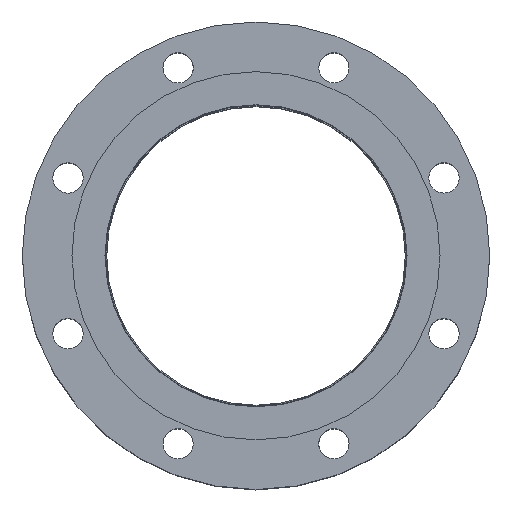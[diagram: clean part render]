
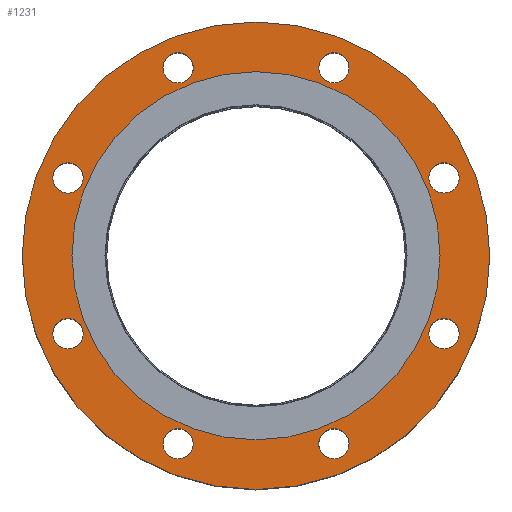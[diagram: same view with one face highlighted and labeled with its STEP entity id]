
A CAD part, top view. The second image highlights one B-rep face of the part: STEP entity #1231.
In plain terms, the highlighted planar face has unit normal (0, 0, 1).
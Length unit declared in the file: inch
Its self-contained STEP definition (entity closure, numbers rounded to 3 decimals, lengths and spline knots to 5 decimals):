
#84=FACE_BOUND('',#331,.T.);
#85=FACE_BOUND('',#332,.T.);
#86=FACE_BOUND('',#333,.T.);
#87=FACE_BOUND('',#334,.T.);
#88=FACE_BOUND('',#335,.T.);
#89=FACE_BOUND('',#336,.T.);
#90=FACE_BOUND('',#337,.T.);
#91=FACE_BOUND('',#338,.T.);
#92=FACE_BOUND('',#339,.T.);
#134=PLANE('',#1404);
#225=FACE_OUTER_BOUND('',#330,.T.);
#330=EDGE_LOOP('',(#957));
#331=EDGE_LOOP('',(#958));
#332=EDGE_LOOP('',(#959));
#333=EDGE_LOOP('',(#960));
#334=EDGE_LOOP('',(#961));
#335=EDGE_LOOP('',(#962));
#336=EDGE_LOOP('',(#963));
#337=EDGE_LOOP('',(#964));
#338=EDGE_LOOP('',(#965));
#339=EDGE_LOOP('',(#966));
#487=CIRCLE('',#1359,0.4375);
#489=CIRCLE('',#1362,0.4375);
#491=CIRCLE('',#1365,0.4375);
#493=CIRCLE('',#1368,0.4375);
#495=CIRCLE('',#1371,0.4375);
#497=CIRCLE('',#1374,0.4375);
#499=CIRCLE('',#1377,0.4375);
#501=CIRCLE('',#1380,0.4375);
#514=CIRCLE('',#1399,5.315);
#516=CIRCLE('',#1403,6.75);
#627=VERTEX_POINT('',#2134);
#629=VERTEX_POINT('',#2140);
#631=VERTEX_POINT('',#2146);
#633=VERTEX_POINT('',#2152);
#635=VERTEX_POINT('',#2158);
#637=VERTEX_POINT('',#2164);
#639=VERTEX_POINT('',#2170);
#641=VERTEX_POINT('',#2176);
#652=VERTEX_POINT('',#2208);
#654=VERTEX_POINT('',#2215);
#731=EDGE_CURVE('',#627,#627,#487,.T.);
#734=EDGE_CURVE('',#629,#629,#489,.T.);
#737=EDGE_CURVE('',#631,#631,#491,.T.);
#740=EDGE_CURVE('',#633,#633,#493,.T.);
#743=EDGE_CURVE('',#635,#635,#495,.T.);
#746=EDGE_CURVE('',#637,#637,#497,.T.);
#749=EDGE_CURVE('',#639,#639,#499,.T.);
#752=EDGE_CURVE('',#641,#641,#501,.T.);
#768=EDGE_CURVE('',#652,#652,#514,.T.);
#770=EDGE_CURVE('',#654,#654,#516,.T.);
#957=ORIENTED_EDGE('',*,*,#770,.T.);
#958=ORIENTED_EDGE('',*,*,#731,.T.);
#959=ORIENTED_EDGE('',*,*,#734,.T.);
#960=ORIENTED_EDGE('',*,*,#737,.T.);
#961=ORIENTED_EDGE('',*,*,#740,.T.);
#962=ORIENTED_EDGE('',*,*,#743,.T.);
#963=ORIENTED_EDGE('',*,*,#746,.T.);
#964=ORIENTED_EDGE('',*,*,#749,.T.);
#965=ORIENTED_EDGE('',*,*,#752,.T.);
#966=ORIENTED_EDGE('',*,*,#768,.T.);
#1231=ADVANCED_FACE('',(#225,#84,#85,#86,#87,#88,#89,#90,#91,#92),#134,
 .T.);
#1359=AXIS2_PLACEMENT_3D('',#2135,#1615,#1616);
#1362=AXIS2_PLACEMENT_3D('',#2141,#1622,#1623);
#1365=AXIS2_PLACEMENT_3D('',#2147,#1629,#1630);
#1368=AXIS2_PLACEMENT_3D('',#2153,#1636,#1637);
#1371=AXIS2_PLACEMENT_3D('',#2159,#1643,#1644);
#1374=AXIS2_PLACEMENT_3D('',#2165,#1650,#1651);
#1377=AXIS2_PLACEMENT_3D('',#2171,#1657,#1658);
#1380=AXIS2_PLACEMENT_3D('',#2177,#1664,#1665);
#1399=AXIS2_PLACEMENT_3D('',#2210,#1705,#1706);
#1403=AXIS2_PLACEMENT_3D('',#2216,#1713,#1714);
#1404=AXIS2_PLACEMENT_3D('',#2218,#1716,#1717);
#1615=DIRECTION('center_axis',(0.,0.,-1.));
#1616=DIRECTION('ref_axis',(0.707,-0.707,0.));
#1622=DIRECTION('center_axis',(0.,0.,-1.));
#1623=DIRECTION('ref_axis',(0.,-1.,0.));
#1629=DIRECTION('center_axis',(0.,0.,-1.));
#1630=DIRECTION('ref_axis',(-0.707,-0.707,0.));
#1636=DIRECTION('center_axis',(0.,0.,-1.));
#1637=DIRECTION('ref_axis',(-1.,0.,0.));
#1643=DIRECTION('center_axis',(0.,0.,-1.));
#1644=DIRECTION('ref_axis',(-0.707,0.707,0.));
#1650=DIRECTION('center_axis',(0.,0.,-1.));
#1651=DIRECTION('ref_axis',(0.,1.,0.));
#1657=DIRECTION('center_axis',(0.,0.,-1.));
#1658=DIRECTION('ref_axis',(0.707,0.707,0.));
#1664=DIRECTION('center_axis',(0.,0.,-1.));
#1665=DIRECTION('ref_axis',(1.,0.,0.));
#1705=DIRECTION('center_axis',(0.,0.,-1.));
#1706=DIRECTION('ref_axis',(0.,1.,0.));
#1713=DIRECTION('center_axis',(0.,0.,1.));
#1714=DIRECTION('ref_axis',(1.,0.,0.));
#1716=DIRECTION('center_axis',(0.,0.,1.));
#1717=DIRECTION('ref_axis',(1.,0.,0.));
#2134=CARTESIAN_POINT('',(1.93891,5.73715,0.53));
#2135=CARTESIAN_POINT('Origin',(2.24827,5.42779,0.53));
#2140=CARTESIAN_POINT('',(5.42779,2.68577,0.53));
#2141=CARTESIAN_POINT('Origin',(5.42779,2.24827,0.53));
#2146=CARTESIAN_POINT('',(5.73715,-1.93891,0.53));
#2147=CARTESIAN_POINT('Origin',(5.42779,-2.24827,0.53));
#2152=CARTESIAN_POINT('',(2.68577,-5.42779,0.53));
#2153=CARTESIAN_POINT('Origin',(2.24827,-5.42779,0.53));
#2158=CARTESIAN_POINT('',(-1.93891,-5.73715,0.53));
#2159=CARTESIAN_POINT('Origin',(-2.24827,-5.42779,0.53));
#2164=CARTESIAN_POINT('',(-5.42779,-2.68577,0.53));
#2165=CARTESIAN_POINT('Origin',(-5.42779,-2.24827,0.53));
#2170=CARTESIAN_POINT('',(-5.73715,1.93891,0.53));
#2171=CARTESIAN_POINT('Origin',(-5.42779,2.24827,0.53));
#2176=CARTESIAN_POINT('',(-2.68577,5.42779,0.53));
#2177=CARTESIAN_POINT('Origin',(-2.24827,5.42779,0.53));
#2208=CARTESIAN_POINT('',(0.,-5.315,0.53));
#2210=CARTESIAN_POINT('Origin',(0.,0.,0.53));
#2215=CARTESIAN_POINT('',(0.,-6.75,0.53));
#2216=CARTESIAN_POINT('Origin',(0.,0.,0.53));
#2218=CARTESIAN_POINT('Origin',(0.,4.36,0.53));
